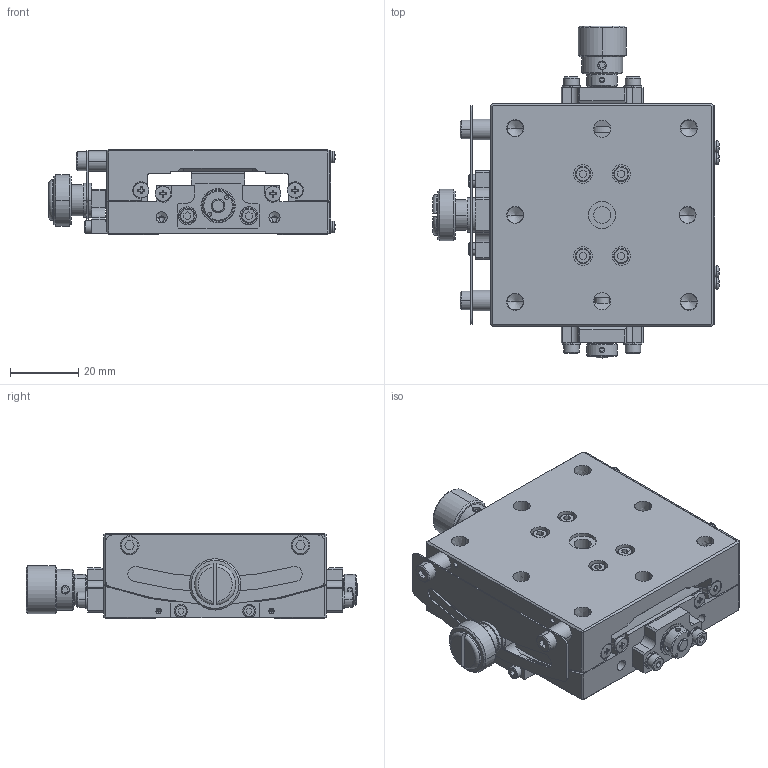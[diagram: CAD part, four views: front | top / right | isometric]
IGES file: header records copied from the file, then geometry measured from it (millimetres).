
Global section: file name: No Iges File Name specified; native system: AutoDesk Inventor R12.0; preprocessor: AutoDesk Inventor Iges Exporter R12.0; date: 20140408.144731; units: millimetre
Bounding box: 83.74 x 97.1 x 25 mm (x, y, z)
Volume: 87269.4 mm3; surface area: 41046.6 mm2
Topology: 2 solids, 42 shells, 1424 faces, 3554 edges, 2235 vertices
Faces by surface type: plane 589, bspline 393, cylinder 197, cone 110, revolution 93, torus 26, sphere 16
